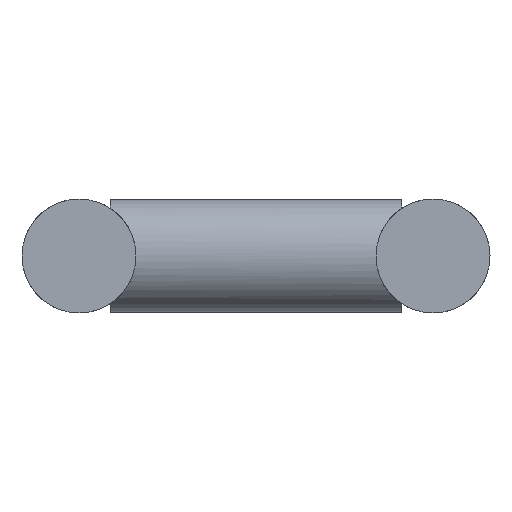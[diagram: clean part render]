
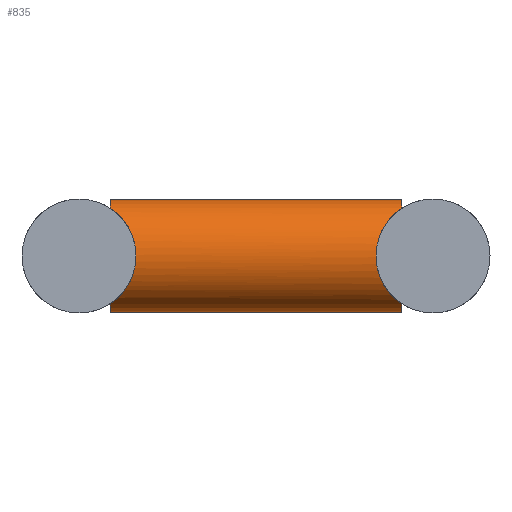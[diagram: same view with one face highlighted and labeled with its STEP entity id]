
A CAD part, left-side view. The second image highlights one B-rep face of the part: STEP entity #835.
In plain terms, the highlighted cylindrical face has radius 24.15 mm (diameter 48.3 mm), a full revolution.
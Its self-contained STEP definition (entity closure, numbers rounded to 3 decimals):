
#34=FACE_BOUND('',#175,.T.);
#78=ELLIPSE('',#894,34.153,24.15);
#79=ELLIPSE('',#895,34.153,24.15);
#80=ELLIPSE('',#896,34.153,24.15);
#81=ELLIPSE('',#897,34.153,24.15);
#102=CYLINDRICAL_SURFACE('',#893,24.15);
#122=FACE_OUTER_BOUND('',#174,.T.);
#174=EDGE_LOOP('',(#546,#547,#548,#549));
#175=EDGE_LOOP('',(#550,#551,#552,#553));
#266=CIRCLE('',#886,24.15);
#267=CIRCLE('',#888,24.15);
#268=CIRCLE('',#890,24.15);
#269=CIRCLE('',#892,24.15);
#354=VERTEX_POINT('',#1261);
#355=VERTEX_POINT('',#1262);
#356=VERTEX_POINT('',#1266);
#357=VERTEX_POINT('',#1267);
#358=VERTEX_POINT('',#1271);
#359=VERTEX_POINT('',#1272);
#360=VERTEX_POINT('',#1276);
#361=VERTEX_POINT('',#1277);
#435=EDGE_CURVE('',#354,#355,#266,.T.);
#437=EDGE_CURVE('',#356,#357,#267,.T.);
#439=EDGE_CURVE('',#358,#359,#268,.T.);
#441=EDGE_CURVE('',#360,#361,#269,.T.);
#442=EDGE_CURVE('',#357,#354,#78,.T.);
#443=EDGE_CURVE('',#355,#356,#79,.T.);
#444=EDGE_CURVE('',#361,#358,#80,.T.);
#445=EDGE_CURVE('',#359,#360,#81,.T.);
#546=ORIENTED_EDGE('',*,*,#442,.F.);
#547=ORIENTED_EDGE('',*,*,#437,.F.);
#548=ORIENTED_EDGE('',*,*,#443,.F.);
#549=ORIENTED_EDGE('',*,*,#435,.F.);
#550=ORIENTED_EDGE('',*,*,#444,.F.);
#551=ORIENTED_EDGE('',*,*,#441,.F.);
#552=ORIENTED_EDGE('',*,*,#445,.F.);
#553=ORIENTED_EDGE('',*,*,#439,.F.);
#835=ADVANCED_FACE('',(#122,#34),#102,.T.);
#886=AXIS2_PLACEMENT_3D('',#1264,#1006,#1007);
#888=AXIS2_PLACEMENT_3D('',#1269,#1011,#1012);
#890=AXIS2_PLACEMENT_3D('',#1274,#1016,#1017);
#892=AXIS2_PLACEMENT_3D('',#1279,#1021,#1022);
#893=AXIS2_PLACEMENT_3D('',#1280,#1023,#1024);
#894=AXIS2_PLACEMENT_3D('',#1281,#1025,#1026);
#895=AXIS2_PLACEMENT_3D('',#1282,#1027,#1028);
#896=AXIS2_PLACEMENT_3D('',#1283,#1029,#1030);
#897=AXIS2_PLACEMENT_3D('',#1284,#1031,#1032);
#1006=DIRECTION('center_axis',(0.,1.,0.));
#1007=DIRECTION('ref_axis',(1.,0.,0.));
#1011=DIRECTION('center_axis',(0.,1.,0.));
#1012=DIRECTION('ref_axis',(1.,0.,0.));
#1016=DIRECTION('center_axis',(0.,-1.,0.));
#1017=DIRECTION('ref_axis',(1.,0.,0.));
#1021=DIRECTION('center_axis',(0.,-1.,0.));
#1022=DIRECTION('ref_axis',(1.,0.,0.));
#1023=DIRECTION('center_axis',(0.,-1.,0.));
#1024=DIRECTION('ref_axis',(1.,0.,0.));
#1025=DIRECTION('center_axis',(-0.707,0.707,0.));
#1026=DIRECTION('ref_axis',(0.707,0.707,0.));
#1027=DIRECTION('center_axis',(0.707,0.707,0.));
#1028=DIRECTION('ref_axis',(0.707,-0.707,0.));
#1029=DIRECTION('center_axis',(0.707,-0.707,0.));
#1030=DIRECTION('ref_axis',(0.707,0.707,0.));
#1031=DIRECTION('center_axis',(-0.707,-0.707,0.));
#1032=DIRECTION('ref_axis',(0.707,-0.707,0.));
#1261=CARTESIAN_POINT('',(63.,61.85,20.256));
#1262=CARTESIAN_POINT('',(89.3,61.85,20.256));
#1264=CARTESIAN_POINT('Origin',(76.15,61.85,0.));
#1266=CARTESIAN_POINT('',(89.3,61.85,-20.256));
#1267=CARTESIAN_POINT('',(63.,61.85,-20.256));
#1269=CARTESIAN_POINT('Origin',(76.15,61.85,0.));
#1271=CARTESIAN_POINT('',(89.3,-61.85,20.256));
#1272=CARTESIAN_POINT('',(63.,-61.85,20.256));
#1274=CARTESIAN_POINT('Origin',(76.15,-61.85,0.));
#1276=CARTESIAN_POINT('',(63.,-61.85,-20.256));
#1277=CARTESIAN_POINT('',(89.3,-61.85,-20.256));
#1279=CARTESIAN_POINT('Origin',(76.15,-61.85,0.));
#1280=CARTESIAN_POINT('Origin',(76.15,61.85,0.));
#1281=CARTESIAN_POINT('Origin',(76.15,75.,0.));
#1282=CARTESIAN_POINT('Origin',(76.15,75.,0.));
#1283=CARTESIAN_POINT('Origin',(76.15,-75.,0.));
#1284=CARTESIAN_POINT('Origin',(76.15,-75.,0.));
